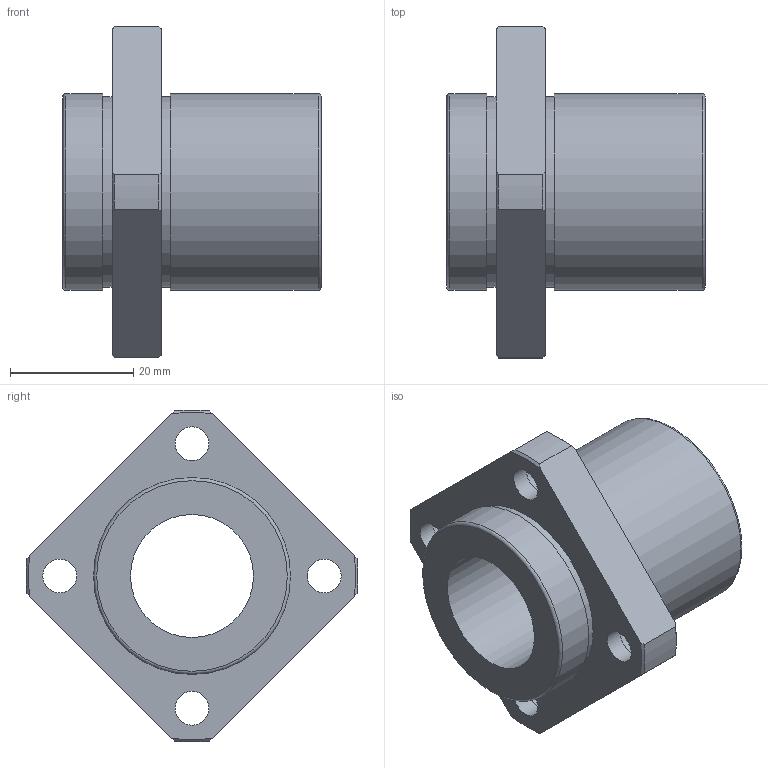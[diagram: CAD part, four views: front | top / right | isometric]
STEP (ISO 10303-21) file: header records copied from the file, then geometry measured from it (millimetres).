
FILE_DESCRIPTION(('STEP AP203'),'1');
FILE_NAME('//192.168.1.1/share/s-4 技術開発/s-4-4_CAD/s-4-4-3_見直し済み/002 修正済み/NFIS-V/NFIS-V_TOP/NFIS-20VUU.step','2022-03-08T02:23:10',(' '),(' '),'Spatial InterOp 3D',' ',' ');
FILE_SCHEMA(('CONFIG_CONTROL_DESIGN'));
Length unit declared in the file: millimetre
Products named in the file (1): 1
Bounding box: 42 x 53.97 x 53.97 mm (x, y, z)
Volume: 26283.9 mm3; surface area: 10885.3 mm2
Topology: 1 solids, 1 shells, 41 faces, 99 edges, 68 vertices
Faces by surface type: cylinder 17, plane 14, cone 8, torus 2
Full cylindrical faces by diameter (mm): 5.5 x4, 9 x4, 20 x1, 31 x2, 32 x2
Entity records: 1158 total; most frequent: CARTESIAN_POINT 226, DIRECTION 188, ORIENTED_EDGE 152, AXIS2_PLACEMENT_3D 86, EDGE_CURVE 76, EDGE_LOOP 74, VERTEX_POINT 60, FACE_OUTER_BOUND 56
